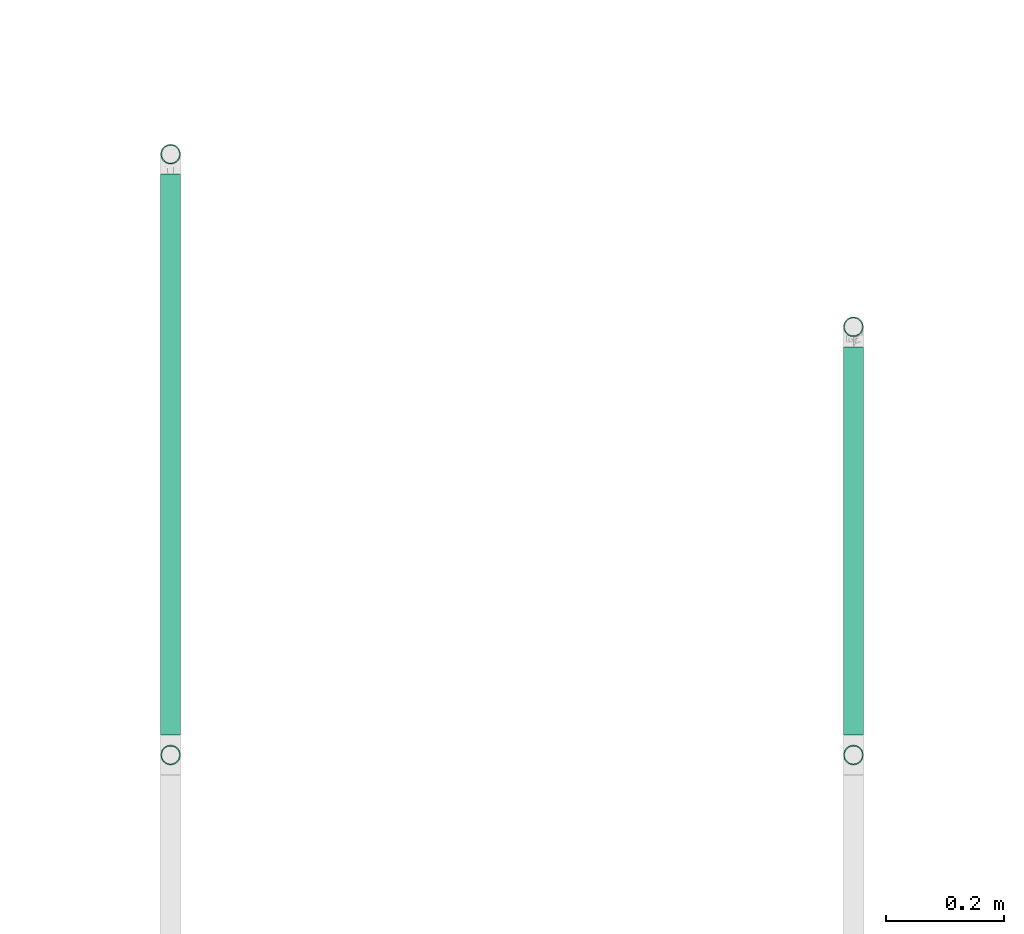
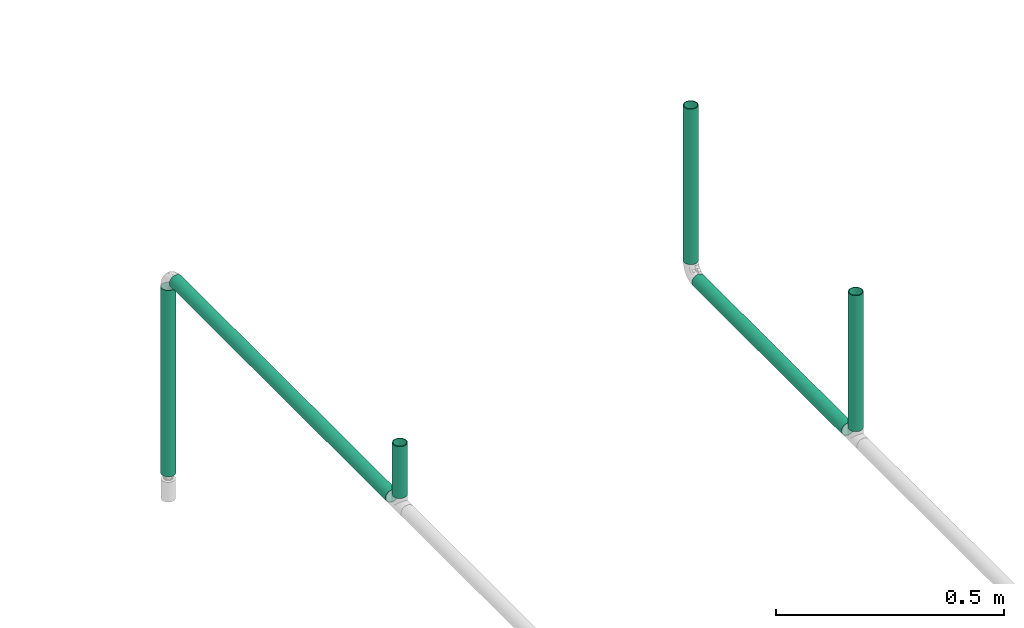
# One storey, part 7 of 95: 6 flow segments.
"""IFC2X3 building model written with IfcOpenShell, lengths in millimetres."""

import ifcopenshell
import ifcopenshell.guid

model = None  # the IFC model being written
_history = None  # IfcOwnerHistory: only IFC2X3 demands one
_inside = {}  # id of a spatial element -> (the spatial element, [elements in it])
_under = {}  # id of a project, library or spatial element -> (it, [spatial elements below it])
_declared = {}  # id of a project -> (the project, [libraries it declares])
_typed = {}  # id of a type object -> (the type object, [elements of that type])
_made_of = {}  # id of a material, layer set ... -> (it, [elements and type objects made of it])


def new_model(schema):
    """Start an empty IFC model of exactly this schema.

    Asked for "IFC4X3", IfcOpenShell would pick the latest addendum, in which some entities
    have other attributes; the version numbers below select the first issue.
    IFC2X3 requires an IfcOwnerHistory on every rooted entity: one is made here for all.
    """
    global model, _history
    if schema == "IFC4X3":
        model = ifcopenshell.file(schema_version=(4, 3, 0, 0))
    else:
        model = ifcopenshell.file(schema=schema)
    _inside.clear()
    _under.clear()
    _declared.clear()
    _typed.clear()
    _made_of.clear()
    _history = None
    if model.schema == "IFC2X3":
        org = make("IfcOrganization", Name="unknown")
        user = make(
            "IfcPersonAndOrganization",
            ThePerson=make("IfcPerson", FamilyName="unknown"),
            TheOrganization=org,
        )
        app = make(
            "IfcApplication",
            ApplicationDeveloper=org,
            Version="unknown",
            ApplicationFullName="unknown",
            ApplicationIdentifier="unknown",
        )
        _history = make(
            "IfcOwnerHistory",
            OwningUser=user,
            OwningApplication=app,
            ChangeAction="ADDED",
            CreationDate=0,
        )
    return model


def make(cls, **values):
    """One entity of the class cls with the attributes given. An attribute that is None is left unset."""
    return model.create_entity(
        cls, **{name: value for name, value in values.items() if value is not None}
    )


def entity(cls, *values):
    """Any entity or typed value of the class cls, its attributes in the order of the schema. None: left unset."""
    e = model.create_entity(cls)
    for i, value in enumerate(values):
        if value is not None:
            e[i] = value
    return e


def rooted(cls, **values):
    """An entity with a GlobalId (a new one), such as an element, a storey or a relation."""
    return make(cls, GlobalId=ifcopenshell.guid.new(), OwnerHistory=_history, **values)


def si_unit(unit_type, name, prefix=None):
    """IfcSIUnit, for example si_unit("LENGTHUNIT", "METRE", prefix="MILLI")."""
    return make("IfcSIUnit", UnitType=unit_type, Prefix=prefix, Name=name)


def converted_unit(unit_type, name, factor, base, dimensions=None, offset=None):
    """IfcConversionBasedUnit, such as the inch: factor (a typed value) times the base unit."""
    return make(
        "IfcConversionBasedUnit"
        if offset is None
        else "IfcConversionBasedUnitWithOffset",
        ConversionOffset=offset,
        Dimensions=None
        if dimensions is None
        else entity("IfcDimensionalExponents", *dimensions),
        UnitType=unit_type,
        Name=name,
        ConversionFactor=make(
            "IfcMeasureWithUnit", ValueComponent=factor, UnitComponent=base
        ),
    )


def derived_unit(unit_type, elements):
    """IfcDerivedUnit: a product of units, each with its exponent."""
    return make(
        "IfcDerivedUnit",
        Elements=[
            make("IfcDerivedUnitElement", Unit=unit, Exponent=power)
            for unit, power in elements
        ],
        UnitType=unit_type,
    )


def assignment(units):
    """IfcUnitAssignment: the units of a project."""
    return None if units is None else make("IfcUnitAssignment", Units=units)


def point(xyz):
    """IfcCartesianPoint."""
    return None if xyz is None else make("IfcCartesianPoint", Coordinates=xyz)


def direction(xyz):
    """IfcDirection."""
    return None if xyz is None else make("IfcDirection", DirectionRatios=xyz)


def frame(location, z_axis=None, x_axis=None):
    """IfcAxis2Placement3D, a coordinate frame: its origin and axes. An axis left out is left unset."""
    return make(
        "IfcAxis2Placement3D",
        Location=point(location),
        Axis=direction(z_axis),
        RefDirection=direction(x_axis),
    )


def frame_2d(location, x_axis=None):
    """IfcAxis2Placement2D, a coordinate frame in the plane: its origin and x axis."""
    return make(
        "IfcAxis2Placement2D", Location=point(location), RefDirection=direction(x_axis)
    )


def origin_with_axes():
    """The frame at (0, 0, 0) with the z axis (0, 0, 1) and the x axis (1, 0, 0) written out."""
    return frame((0.0, 0.0, 0.0), z_axis=(0.0, 0.0, 1.0), x_axis=(1.0, 0.0, 0.0))


def origin_2d_with_axis():
    """The frame at (0, 0) in the plane with the x axis (1, 0) written out."""
    return frame_2d((0.0, 0.0), x_axis=(1.0, 0.0))


def place(relative_to, where):
    """IfcLocalPlacement: puts the frame where relative to a parent placement (None: the world)."""
    return make(
        "IfcLocalPlacement", PlacementRelTo=relative_to, RelativePlacement=where
    )


def context(
    kind, dimensions, precision=None, world=None, true_north=None, identifier=None
):
    """IfcGeometricRepresentationContext, for example the 3D "Model" context."""
    return make(
        "IfcGeometricRepresentationContext",
        ContextIdentifier=identifier,
        ContextType=kind,
        CoordinateSpaceDimension=dimensions,
        Precision=precision,
        WorldCoordinateSystem=world,
        TrueNorth=true_north,
    )


def subcontext(parent, identifier, kind, view, scale=None):
    """IfcGeometricRepresentationSubContext, for example "Body" below "Model"."""
    return make(
        "IfcGeometricRepresentationSubContext",
        ContextIdentifier=identifier,
        ContextType=kind,
        ParentContext=parent,
        TargetScale=scale,
        TargetView=view,
    )


def project(units=None, contexts=None):
    """IfcProject with its units and contexts."""
    return rooted(
        "IfcProject",
        Name="project",
        RepresentationContexts=contexts,
        UnitsInContext=assignment(units),
    )


def spatial(cls, under=None, at=None, **own):
    """A site, building, storey or space (cls), placed at a placement, below another one or the project."""
    s = rooted(cls, ObjectPlacement=at, **own)
    if under is not None:
        _under.setdefault(under.id(), (under, []))[1].append(s)
    return s


def profile(cls, at=None, kind="AREA", **sizes):
    """A parametric profile (cls). Its sizes go by their IFC names, for example OverallWidth=200.0."""
    return make(cls, ProfileType=kind, Position=at, **sizes)


def hollow_circle(**sizes):
    """IfcCircleHollowProfileDef."""
    return profile("IfcCircleHollowProfileDef", **sizes)


def extrude(swept, where, along, depth):
    """IfcExtrudedAreaSolid: the profile swept, set in the frame where, extruded along a direction by depth."""
    return make(
        "IfcExtrudedAreaSolid",
        SweptArea=swept,
        Position=where,
        ExtrudedDirection=direction(along),
        Depth=depth,
    )


def shape(context_of_items, identifier, shape_type, items):
    """IfcShapeRepresentation: the items that make up one representation, for example the "Body"."""
    return make(
        "IfcShapeRepresentation",
        ContextOfItems=context_of_items,
        RepresentationIdentifier=identifier,
        RepresentationType=shape_type,
        Items=items,
    )


def source(mapping_origin, context_of_items, identifier, shape_type, items):
    """IfcRepresentationMap: a shape defined once, which mapped items show again and again."""
    return make(
        "IfcRepresentationMap",
        MappingOrigin=mapping_origin,
        MappedRepresentation=shape(context_of_items, identifier, shape_type, items),
    )


def transform(
    local_origin,
    x_axis=None,
    y_axis=None,
    z_axis=None,
    scale=None,
    scale2=None,
    scale3=None,
    uniform=True,
):
    """IfcCartesianTransformationOperator3D, or its non-uniform kind. x_axis, y_axis, z_axis: its Axis1, 2, 3."""
    if uniform:
        return make(
            "IfcCartesianTransformationOperator3D",
            Axis1=direction(x_axis),
            Axis2=direction(y_axis),
            LocalOrigin=point(local_origin),
            Scale=scale,
            Axis3=direction(z_axis),
        )
    return make(
        "IfcCartesianTransformationOperator3DnonUniform",
        Axis1=direction(x_axis),
        Axis2=direction(y_axis),
        LocalOrigin=point(local_origin),
        Scale=scale,
        Axis3=direction(z_axis),
        Scale2=scale2,
        Scale3=scale3,
    )


def mapped(mapping_source, mapping_target):
    """IfcMappedItem: shows the shape of a source again, moved by a transform."""
    return make(
        "IfcMappedItem", MappingSource=mapping_source, MappingTarget=mapping_target
    )


def made_of(thing, what):
    """Note that an element or type object is made of a material, layer set ...; save() writes the relation."""
    if what is not None:
        _made_of.setdefault(what.id(), (what, []))[1].append(thing)
    return thing


def type_object(cls, material=None, **own):
    """A type object (cls), such as IfcWallType, which elements share."""
    return made_of(rooted(cls, **own), material)


def element(
    cls,
    number,
    at=None,
    inside=None,
    cuts=None,
    type_object=None,
    material=None,
    context=None,
    identifier="Body",
    shape_type=None,
    held_by="IfcProductDefinitionShape",
    body=None,
    shapes=None,
    **own,
):
    """One element of the class cls, such as IfcWall. Its Tag is "e" and its number.

    at: its placement. inside: the storey or other place that contains it. cuts: it is an
    opening in that element (IfcRelVoidsElement). A single representation is given by context,
    identifier, shape_type and body (its items); several are given by shapes. held_by: the class
    of the entity that holds the representations. save() writes the other relations.
    """
    e = rooted(cls, Tag="e%d" % number, ObjectPlacement=at, **own)
    if body is not None:
        shapes = [shape(context, identifier, shape_type, body)]
    if shapes is not None:
        e.Representation = make(held_by, Representations=shapes)
    if inside is not None:
        _inside.setdefault(inside.id(), (inside, []))[1].append(e)
    if cuts is not None:
        rooted(
            "IfcRelVoidsElement", RelatingBuildingElement=cuts, RelatedOpeningElement=e
        )
    if type_object is not None:
        _typed.setdefault(type_object.id(), (type_object, []))[1].append(e)
    return made_of(e, material)


def aggregate(whole, parts):
    """IfcRelAggregates: a whole, such as a stair, and the parts it consists of."""
    return rooted("IfcRelAggregates", RelatingObject=whole, RelatedObjects=parts)


def save(model, path):
    """Write the relations noted so far, then the file.

    IfcRelAggregates (storeys below a building ...), IfcRelContainedInSpatialStructure (elements
    in a storey), IfcRelDefinesByType, IfcRelAssociatesMaterial and IfcRelDeclares: one each for
    every whole, place, type object, material and project.
    """
    for whole, parts in _under.values():
        aggregate(whole, parts)
    for where, things in _inside.values():
        rooted(
            "IfcRelContainedInSpatialStructure",
            RelatedElements=things,
            RelatingStructure=where,
        )
    for kind, things in _typed.values():
        rooted("IfcRelDefinesByType", RelatedObjects=things, RelatingType=kind)
    for what, things in _made_of.values():
        rooted("IfcRelAssociatesMaterial", RelatedObjects=things, RelatingMaterial=what)
    for by, libraries in _declared.values():
        rooted("IfcRelDeclares", RelatingContext=by, RelatedDefinitions=libraries)
    model.write(path)


model = new_model("IFC2X3")

# Units and contexts
model_context = context("Model", 3, precision=0.01, world=frame((0.0, 4.29681676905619e-09, 0.0)), true_north=direction((4.01073788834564e-13, 1.0)))
plan_context = context("Plan", 3, precision=0.01, world=frame((0.0, 4.29681676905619e-09, 0.0)), true_north=direction((4.01073788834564e-13, 1.0)))
body_context = subcontext(model_context, "Body", "Model", "MODEL_VIEW")
ifc_project = project(units=[converted_unit("PLANEANGLEUNIT", "DEGREE", entity("IfcPositiveLengthMeasure", 0.0174532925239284), si_unit("PLANEANGLEUNIT", "RADIAN"), dimensions=[0, 0, 0, 0, 0, 0, 0]), si_unit("AREAUNIT", "SQUARE_METRE"), si_unit("LENGTHUNIT", "METRE", prefix="MILLI"), si_unit("MASSUNIT", "GRAM", prefix="KILO"), si_unit("POWERUNIT", "WATT"), si_unit("PRESSUREUNIT", "PASCAL"), si_unit("FORCEUNIT", "NEWTON", prefix="KILO"), si_unit("ELECTRICVOLTAGEUNIT", "VOLT"), si_unit("ELECTRICCURRENTUNIT", "AMPERE"), si_unit("THERMODYNAMICTEMPERATUREUNIT", "DEGREE_CELSIUS"), si_unit("TIMEUNIT", "SECOND"), si_unit("VOLUMEUNIT", "CUBIC_METRE"), derived_unit("LINEARVELOCITYUNIT", [(si_unit("LENGTHUNIT", "METRE"), 1), (si_unit("TIMEUNIT", "SECOND"), -1)]), derived_unit("VOLUMETRICFLOWRATEUNIT", [(si_unit("VOLUMEUNIT", "CUBIC_METRE"), 1), (si_unit("TIMEUNIT", "SECOND"), -1)]), derived_unit("THERMALTRANSMITTANCEUNIT", [(si_unit("POWERUNIT", "WATT"), 1), (si_unit("THERMODYNAMICTEMPERATUREUNIT", "KELVIN"), -1), (si_unit("AREAUNIT", "SQUARE_METRE"), -1)]), derived_unit("SOUNDPRESSUREUNIT", [(si_unit("PRESSUREUNIT", "PASCAL"), 1)])], contexts=[model_context, plan_context])

# Site, building, storey
site_placement = place(None, frame((0.0, -4.29681676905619e-09, 0.0), z_axis=(0.0, 0.0, 1.0), x_axis=(1.0, 0.0, 0.0)))
site = spatial("IfcSite", under=ifc_project, at=site_placement, CompositionType="ELEMENT")
building_placement = place(site_placement, frame((0.0, 4.29681676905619e-09, 0.0), z_axis=(0.0, 0.0, 1.0), x_axis=(1.0, 0.0, 0.0)))
building = spatial("IfcBuilding", under=site, at=building_placement, Name="mc-building", CompositionType="ELEMENT")
storey_placement = place(building_placement, frame((0.0, 0.0, 210900.0), z_axis=(0.0, 0.0, 1.0), x_axis=(1.0, 0.0, 0.0)))
storey = spatial("IfcBuildingStorey", under=building, at=storey_placement, Name="Nivå F", CompositionType="ELEMENT", Elevation=210900.0)

# Flow segments
pipe_segment_type = type_object("IfcPipeSegmentType", Name="Stålrør normaltykke", PredefinedType="RIGIDSEGMENT")
shared_shape_1 = source(origin_with_axes(), body_context, "Body", "SweptSolid", [
    extrude(hollow_circle(Radius=16.9, WallThickness=2.0, at=origin_2d_with_axis()), frame((0.0, 0.0, 0.0), z_axis=(1.0, 0.0, 0.0), x_axis=(0.0, 1.0, 0.0)), (0.0, 0.0, 1.0), 416.2),
])
flow_segment_1_placement = place(storey_placement, frame((527453.43639, 446915.88295, 4532.64799999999), z_axis=(0.0, 1.0, 0.0), x_axis=(0.0, 0.0, -1.0)))
element("IfcFlowSegment", 1, at=flow_segment_1_placement, inside=storey, type_object=pipe_segment_type, Name="Stålrør normaltykke", context=body_context, shape_type="MappedRepresentation", body=[
    mapped(shared_shape_1, transform((0.0, 0.0, 0.0), scale=1.0)),
])
shared_shape_2 = source(origin_with_axes(), body_context, "Body", "SweptSolid", [
    extrude(hollow_circle(Radius=16.9, WallThickness=2.0, at=origin_2d_with_axis()), frame((0.0, 0.0, 0.0), z_axis=(1.0, 0.0, 0.0), x_axis=(0.0, 1.0, 0.0)), (0.0, 0.0, 1.0), 656.5),
])
flow_segment_2_placement = place(storey_placement, frame((527453.43639, 446882.08295, 4082.76795000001), z_axis=(0.0, 0.0, 1.0), x_axis=(0.0, -1.0, 0.0)))
element("IfcFlowSegment", 2, at=flow_segment_2_placement, inside=storey, type_object=pipe_segment_type, Name="Stålrør normaltykke", context=body_context, shape_type="MappedRepresentation", body=[
    mapped(shared_shape_2, transform((0.0, 0.0, 0.0), scale=1.0)),
])
shared_shape_3 = source(origin_with_axes(), body_context, "Body", "SweptSolid", [
    extrude(hollow_circle(Radius=16.9, WallThickness=2.0, at=origin_2d_with_axis()), frame((0.0, 0.0, 0.0), z_axis=(1.0, 0.0, 0.0), x_axis=(0.0, 1.0, 0.0)), (0.0, 0.0, 1.0), 364.2),
])
flow_segment_3_placement = place(storey_placement, frame((527453.43639, 446191.7762, 4108.11794999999), z_axis=(-1.0, 0.0, 0.0), x_axis=(0.0, 0.0, 1.0)))
element("IfcFlowSegment", 3, at=flow_segment_3_placement, inside=storey, type_object=pipe_segment_type, Name="Stålrør normaltykke", context=body_context, shape_type="MappedRepresentation", body=[
    mapped(shared_shape_3, transform((0.0, 0.0, 0.0), scale=1.0)),
])
shared_shape_4 = source(origin_with_axes(), body_context, "Body", "SweptSolid", [
    extrude(hollow_circle(Radius=16.9, WallThickness=2.0, at=origin_2d_with_axis()), frame((0.0, 0.0, 0.0), z_axis=(1.0, 0.0, 0.0), x_axis=(0.0, 1.0, 0.0)), (0.0, 0.0, 1.0), 499.1),
])
flow_segment_4_placement = place(storey_placement, frame((526298.68266, 447207.85, 3775.348), z_axis=(-1.0, 0.0, 0.0), x_axis=(0.0, 0.0, 1.0)))
element("IfcFlowSegment", 4, at=flow_segment_4_placement, inside=storey, type_object=pipe_segment_type, Name="Stålrør normaltykke", context=body_context, shape_type="MappedRepresentation", body=[
    mapped(shared_shape_4, transform((0.0, 0.0, 0.0), scale=1.0)),
])
shared_shape_5 = source(origin_with_axes(), body_context, "Body", "SweptSolid", [
    extrude(hollow_circle(Radius=16.9, WallThickness=2.0, at=origin_2d_with_axis()), frame((0.0, 0.0, 0.0), z_axis=(1.0, 0.0, 0.0), x_axis=(0.0, 1.0, 0.0)), (0.0, 0.0, 1.0), 948.5),
])
flow_segment_5_placement = place(storey_placement, frame((526298.68266, 447174.05, 4308.26618000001), z_axis=(0.0, 0.0, 1.0), x_axis=(0.0, -1.0, 0.0)))
element("IfcFlowSegment", 5, at=flow_segment_5_placement, inside=storey, type_object=pipe_segment_type, Name="Stålrør normaltykke", context=body_context, shape_type="MappedRepresentation", body=[
    mapped(shared_shape_5, transform((0.0, 0.0, 0.0), scale=1.0)),
])
shared_shape_6 = source(origin_with_axes(), body_context, "Body", "SweptSolid", [
    extrude(hollow_circle(Radius=16.9, WallThickness=2.0, at=origin_2d_with_axis()), frame((0.0, 0.0, 0.0), z_axis=(1.0, 0.0, 0.0), x_axis=(0.0, 1.0, 0.0)), (0.0, 0.0, 1.0), 138.7),
])
flow_segment_6_placement = place(storey_placement, frame((526298.68266, 446191.7762, 4333.61618000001), z_axis=(0.0, 1.0, 0.0), x_axis=(0.0, 0.0, 1.0)))
element("IfcFlowSegment", 6, at=flow_segment_6_placement, inside=storey, type_object=pipe_segment_type, Name="Stålrør normaltykke", context=body_context, shape_type="MappedRepresentation", body=[
    mapped(shared_shape_6, transform((0.0, 0.0, 0.0), scale=1.0)),
])

save(model, "model.ifc")
